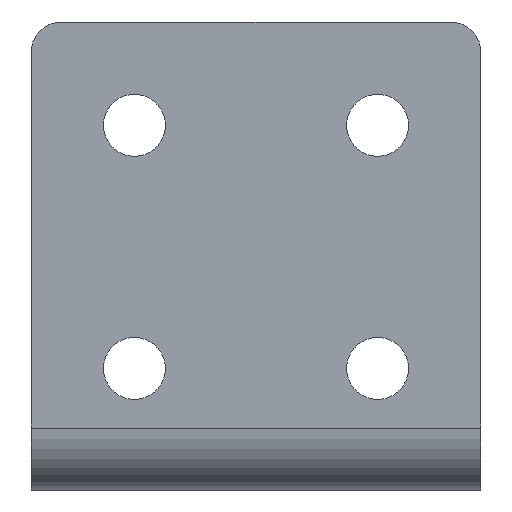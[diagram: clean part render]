
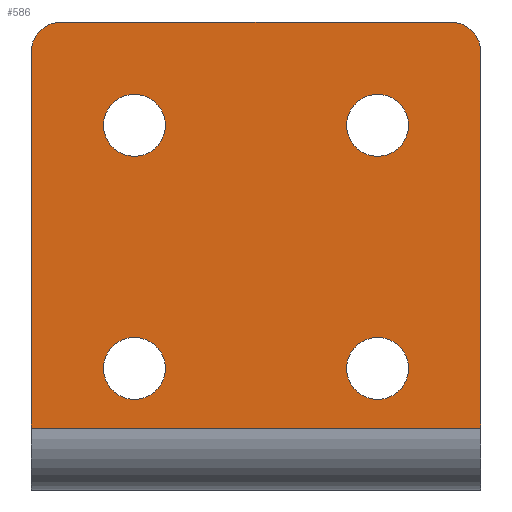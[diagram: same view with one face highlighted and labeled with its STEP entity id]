
A CAD part, front view. The second image highlights one B-rep face of the part: STEP entity #586.
In plain terms, the highlighted planar face has unit normal (0, -1, 0).
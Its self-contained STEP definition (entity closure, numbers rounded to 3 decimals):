
#3 = CIRCLE ( 'NONE', #965, 2.5 ) ;
#46 = ORIENTED_EDGE ( 'NONE', *, *, #178, .F. ) ;
#48 = DIRECTION ( 'NONE',  ( 0., 1., 0. ) ) ;
#49 = EDGE_CURVE ( 'NONE', #815, #186, #583, .T. ) ;
#54 = DIRECTION ( 'NONE',  ( 0., 0., -1. ) ) ;
#55 = CARTESIAN_POINT ( 'NONE',  ( -1.365, -29.511, 12.55 ) ) ;
#56 = DIRECTION ( 'NONE',  ( 0., 1., 0. ) ) ;
#67 = DIRECTION ( 'NONE',  ( 0., 0., 1. ) ) ;
#70 = CARTESIAN_POINT ( 'NONE',  ( 24.635, -29.511, 36. ) ) ;
#86 = EDGE_CURVE ( 'NONE', #893, #255, #319, .T. ) ;
#93 = EDGE_CURVE ( 'NONE', #361, #1052, #552, .T. ) ;
#106 = CARTESIAN_POINT ( 'NONE',  ( -1.365, -29.511, 10. ) ) ;
#107 = CARTESIAN_POINT ( 'NONE',  ( -9.865, -29.511, 5.1 ) ) ;
#133 = CARTESIAN_POINT ( 'NONE',  ( 24.635, -29.511, 38.5 ) ) ;
#141 = CIRCLE ( 'NONE', #739, 2.5 ) ;
#150 = AXIS2_PLACEMENT_3D ( 'NONE', #153, #416, #1021 ) ;
#153 = CARTESIAN_POINT ( 'NONE',  ( -9.865, -29.511, 38.5 ) ) ;
#155 = CARTESIAN_POINT ( 'NONE',  ( -9.865, -29.511, 36. ) ) ;
#160 = DIRECTION ( 'NONE',  ( 0., 0., -1. ) ) ;
#170 = FACE_BOUND ( 'NONE', #345, .T. ) ;
#178 = EDGE_CURVE ( 'NONE', #893, #1063, #3, .T. ) ;
#184 = ORIENTED_EDGE ( 'NONE', *, *, #937, .T. ) ;
#186 = VERTEX_POINT ( 'NONE', #504 ) ;
#188 = DIRECTION ( 'NONE',  ( 0., 0., 1. ) ) ;
#189 = DIRECTION ( 'NONE',  ( 0., 1., 0. ) ) ;
#193 = CIRCLE ( 'NONE', #1109, 2.55 ) ;
#198 = CARTESIAN_POINT ( 'NONE',  ( 27.135, -29.511, 36. ) ) ;
#206 = VECTOR ( 'NONE', #393, 1000. ) ;
#209 = CARTESIAN_POINT ( 'NONE',  ( -1.365, -29.511, 30. ) ) ;
#212 = ORIENTED_EDGE ( 'NONE', *, *, #863, .T. ) ;
#221 = CIRCLE ( 'NONE', #343, 2.55 ) ;
#224 = VERTEX_POINT ( 'NONE', #850 ) ;
#227 = DIRECTION ( 'NONE',  ( 0., 1., 0. ) ) ;
#230 = ORIENTED_EDGE ( 'NONE', *, *, #49, .T. ) ;
#255 = VERTEX_POINT ( 'NONE', #1121 ) ;
#287 = EDGE_LOOP ( 'NONE', ( #786, #46, #951, #1025, #184, #619 ) ) ;
#288 = AXIS2_PLACEMENT_3D ( 'NONE', #106, #711, #188 ) ;
#294 = CARTESIAN_POINT ( 'NONE',  ( -9.865, -29.511, 5.1 ) ) ;
#299 = DIRECTION ( 'NONE',  ( 0., 0., 1. ) ) ;
#309 = CARTESIAN_POINT ( 'NONE',  ( 27.135, -29.511, 38.5 ) ) ;
#319 = LINE ( 'NONE', #486, #1041 ) ;
#324 = AXIS2_PLACEMENT_3D ( 'NONE', #408, #1015, #494 ) ;
#339 = EDGE_CURVE ( 'NONE', #988, #224, #381, .T. ) ;
#340 = EDGE_CURVE ( 'NONE', #679, #655, #845, .T. ) ;
#343 = AXIS2_PLACEMENT_3D ( 'NONE', #572, #48, #654 ) ;
#345 = EDGE_LOOP ( 'NONE', ( #352, #878 ) ) ;
#352 = ORIENTED_EDGE ( 'NONE', *, *, #339, .T. ) ;
#359 = DIRECTION ( 'NONE',  ( -1., 0., 0. ) ) ;
#361 = VERTEX_POINT ( 'NONE', #1062 ) ;
#381 = CIRCLE ( 'NONE', #485, 2.55 ) ;
#393 = DIRECTION ( 'NONE',  ( 0., 0., -1. ) ) ;
#397 = FACE_BOUND ( 'NONE', #1058, .T. ) ;
#406 = DIRECTION ( 'NONE',  ( -1., 0., 0. ) ) ;
#407 = AXIS2_PLACEMENT_3D ( 'NONE', #581, #56, #665 ) ;
#408 = CARTESIAN_POINT ( 'NONE',  ( 18.635, -29.511, 30. ) ) ;
#416 = DIRECTION ( 'NONE',  ( 0., -1., 0. ) ) ;
#439 = LINE ( 'NONE', #309, #206 ) ;
#485 = AXIS2_PLACEMENT_3D ( 'NONE', #712, #189, #799 ) ;
#486 = CARTESIAN_POINT ( 'NONE',  ( -9.865, -29.511, 38.5 ) ) ;
#494 = DIRECTION ( 'NONE',  ( 0., 0., 1. ) ) ;
#497 = EDGE_CURVE ( 'NONE', #783, #829, #942, .T. ) ;
#504 = CARTESIAN_POINT ( 'NONE',  ( -1.365, -29.511, 7.45 ) ) ;
#512 = ORIENTED_EDGE ( 'NONE', *, *, #93, .T. ) ;
#518 = EDGE_CURVE ( 'NONE', #1052, #361, #685, .T. ) ;
#548 = LINE ( 'NONE', #914, #1009 ) ;
#552 = CIRCLE ( 'NONE', #407, 2.55 ) ;
#558 = CARTESIAN_POINT ( 'NONE',  ( 27.135, -29.511, 5.1 ) ) ;
#568 = EDGE_LOOP ( 'NONE', ( #924, #512 ) ) ;
#572 = CARTESIAN_POINT ( 'NONE',  ( -1.365, -29.511, 10. ) ) ;
#578 = DIRECTION ( 'NONE',  ( 0., 1., 0. ) ) ;
#581 = CARTESIAN_POINT ( 'NONE',  ( 18.635, -29.511, 30. ) ) ;
#583 = CIRCLE ( 'NONE', #288, 2.55 ) ;
#586 = ADVANCED_FACE ( 'NONE', ( #857, #397, #1089, #170, #1064 ), #931, .T. ) ;
#591 = DIRECTION ( 'NONE',  ( 0., 1., 0. ) ) ;
#619 = ORIENTED_EDGE ( 'NONE', *, *, #340, .F. ) ;
#633 = CIRCLE ( 'NONE', #1050, 2.55 ) ;
#654 = DIRECTION ( 'NONE',  ( 0., 0., 1. ) ) ;
#655 = VERTEX_POINT ( 'NONE', #294 ) ;
#665 = DIRECTION ( 'NONE',  ( 0., 0., 1. ) ) ;
#676 = DIRECTION ( 'NONE',  ( 0., 1., 0. ) ) ;
#679 = VERTEX_POINT ( 'NONE', #558 ) ;
#684 = ORIENTED_EDGE ( 'NONE', *, *, #743, .T. ) ;
#685 = CIRCLE ( 'NONE', #324, 2.55 ) ;
#711 = DIRECTION ( 'NONE',  ( 0., 1., 0. ) ) ;
#712 = CARTESIAN_POINT ( 'NONE',  ( 18.635, -29.511, 10. ) ) ;
#739 = AXIS2_PLACEMENT_3D ( 'NONE', #1096, #578, #54 ) ;
#743 = EDGE_CURVE ( 'NONE', #186, #815, #221, .T. ) ;
#748 = CARTESIAN_POINT ( 'NONE',  ( -1.365, -29.511, 30. ) ) ;
#783 = VERTEX_POINT ( 'NONE', #1004 ) ;
#785 = CARTESIAN_POINT ( 'NONE',  ( 18.635, -29.511, 12.55 ) ) ;
#786 = ORIENTED_EDGE ( 'NONE', *, *, #894, .F. ) ;
#799 = DIRECTION ( 'NONE',  ( 0., 0., 1. ) ) ;
#815 = VERTEX_POINT ( 'NONE', #55 ) ;
#816 = VECTOR ( 'NONE', #359, 1000. ) ;
#820 = DIRECTION ( 'NONE',  ( 0., 1., 0. ) ) ;
#829 = VERTEX_POINT ( 'NONE', #985 ) ;
#834 = DIRECTION ( 'NONE',  ( 0., 0., 1. ) ) ;
#837 = DIRECTION ( 'NONE',  ( 0., 0., -1. ) ) ;
#845 = LINE ( 'NONE', #107, #816 ) ;
#850 = CARTESIAN_POINT ( 'NONE',  ( 18.635, -29.511, 7.45 ) ) ;
#857 = FACE_BOUND ( 'NONE', #568, .T. ) ;
#863 = EDGE_CURVE ( 'NONE', #829, #783, #633, .T. ) ;
#878 = ORIENTED_EDGE ( 'NONE', *, *, #1099, .T. ) ;
#893 = VERTEX_POINT ( 'NONE', #133 ) ;
#894 = EDGE_CURVE ( 'NONE', #1063, #679, #439, .T. ) ;
#914 = CARTESIAN_POINT ( 'NONE',  ( -9.865, -29.511, 38.5 ) ) ;
#917 = EDGE_CURVE ( 'NONE', #1124, #255, #141, .T. ) ;
#924 = ORIENTED_EDGE ( 'NONE', *, *, #518, .T. ) ;
#931 = PLANE ( 'NONE',  #150 ) ;
#937 = EDGE_CURVE ( 'NONE', #1124, #655, #548, .T. ) ;
#942 = CIRCLE ( 'NONE', #1033, 2.55 ) ;
#951 = ORIENTED_EDGE ( 'NONE', *, *, #86, .T. ) ;
#957 = EDGE_LOOP ( 'NONE', ( #230, #684 ) ) ;
#959 = ORIENTED_EDGE ( 'NONE', *, *, #497, .T. ) ;
#965 = AXIS2_PLACEMENT_3D ( 'NONE', #70, #676, #160 ) ;
#976 = CARTESIAN_POINT ( 'NONE',  ( 18.635, -29.511, 32.55 ) ) ;
#985 = CARTESIAN_POINT ( 'NONE',  ( -1.365, -29.511, 32.55 ) ) ;
#988 = VERTEX_POINT ( 'NONE', #785 ) ;
#1004 = CARTESIAN_POINT ( 'NONE',  ( -1.365, -29.511, 27.45 ) ) ;
#1009 = VECTOR ( 'NONE', #837, 1000. ) ;
#1015 = DIRECTION ( 'NONE',  ( 0., 1., 0. ) ) ;
#1021 = DIRECTION ( 'NONE',  ( 0., 0., -1. ) ) ;
#1025 = ORIENTED_EDGE ( 'NONE', *, *, #917, .F. ) ;
#1033 = AXIS2_PLACEMENT_3D ( 'NONE', #748, #227, #834 ) ;
#1041 = VECTOR ( 'NONE', #406, 1000. ) ;
#1050 = AXIS2_PLACEMENT_3D ( 'NONE', #209, #820, #299 ) ;
#1052 = VERTEX_POINT ( 'NONE', #976 ) ;
#1058 = EDGE_LOOP ( 'NONE', ( #212, #959 ) ) ;
#1062 = CARTESIAN_POINT ( 'NONE',  ( 18.635, -29.511, 27.45 ) ) ;
#1063 = VERTEX_POINT ( 'NONE', #198 ) ;
#1064 = FACE_OUTER_BOUND ( 'NONE', #287, .T. ) ;
#1089 = FACE_BOUND ( 'NONE', #957, .T. ) ;
#1096 = CARTESIAN_POINT ( 'NONE',  ( -7.365, -29.511, 36. ) ) ;
#1099 = EDGE_CURVE ( 'NONE', #224, #988, #193, .T. ) ;
#1107 = CARTESIAN_POINT ( 'NONE',  ( 18.635, -29.511, 10. ) ) ;
#1109 = AXIS2_PLACEMENT_3D ( 'NONE', #1107, #591, #67 ) ;
#1121 = CARTESIAN_POINT ( 'NONE',  ( -7.365, -29.511, 38.5 ) ) ;
#1124 = VERTEX_POINT ( 'NONE', #155 ) ;
